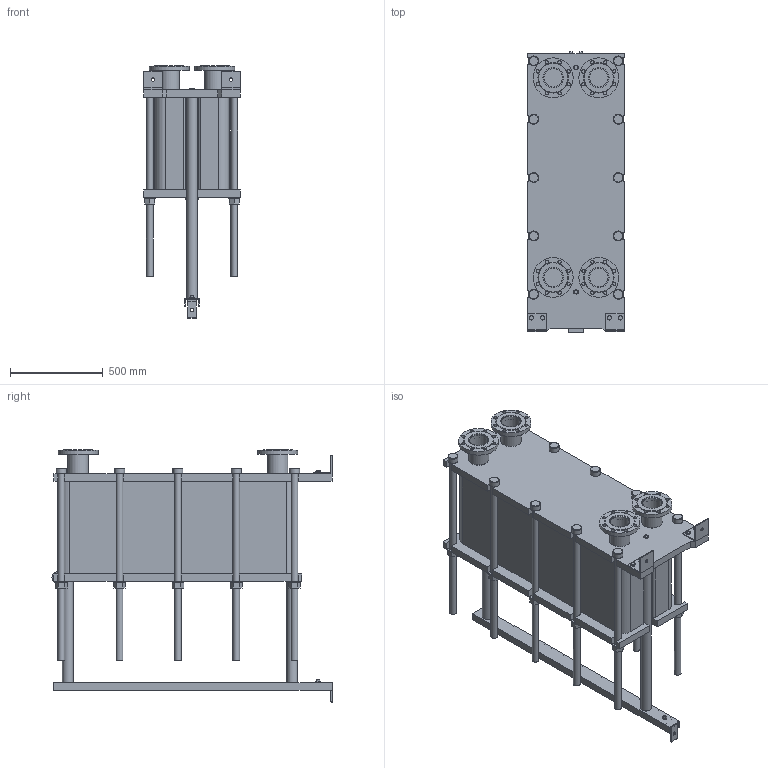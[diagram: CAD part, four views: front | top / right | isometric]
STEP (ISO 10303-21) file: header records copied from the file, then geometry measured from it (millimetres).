
FILE_DESCRIPTION(/* description */ (''),/* implementation_level */ '2;1');
FILE_NAME(/* name */ 'C:\Users\zhuro\Desktop\ENCO\TO\ЭН-04\ЭН-0,5-04-145-1.stp',/* time_stamp */ '2022-06-06T10:58:23+03:00',/* author */ ('zhuro'),/* organization */ (''),/* preprocessor_version */ 'ST-DEVELOPER v18.1',/* originating_system */ 'Autodesk Inventor 2022',/* authorisation */ '');
FILE_SCHEMA (('AUTOMOTIVE_DESIGN { 1 0 10303 214 3 1 1 }'));
Length unit declared in the file: millimetre
Products named in the file (1): ЭН-0,5-04-145-1
Bounding box: 520 x 1510 x 1362.5 mm (x, y, z)
Volume: 323631243.6 mm3; surface area: 9344816.2 mm2
Topology: 45 solids, 45 shells, 668 faces, 1611 edges, 1048 vertices
Faces by surface type: plane 457, cylinder 166, cone 39, torus 6
Full cylindrical faces by diameter (mm): 8 x4, 10 x2, 16 x8, 18 x35, 36 x25, 40 x2, 42 x1, 45 x4, 54 x10, 57 x2, 60 x10, 68 x2, 100 x4, 110 x8, 215 x4
Entity records: 23607 total; most frequent: CARTESIAN_POINT 7348, DIRECTION 3371, ORIENTED_EDGE 3142, EDGE_CURVE 1571, AXIS2_PLACEMENT_3D 1199, VERTEX_POINT 1044, LINE 973, VECTOR 973
